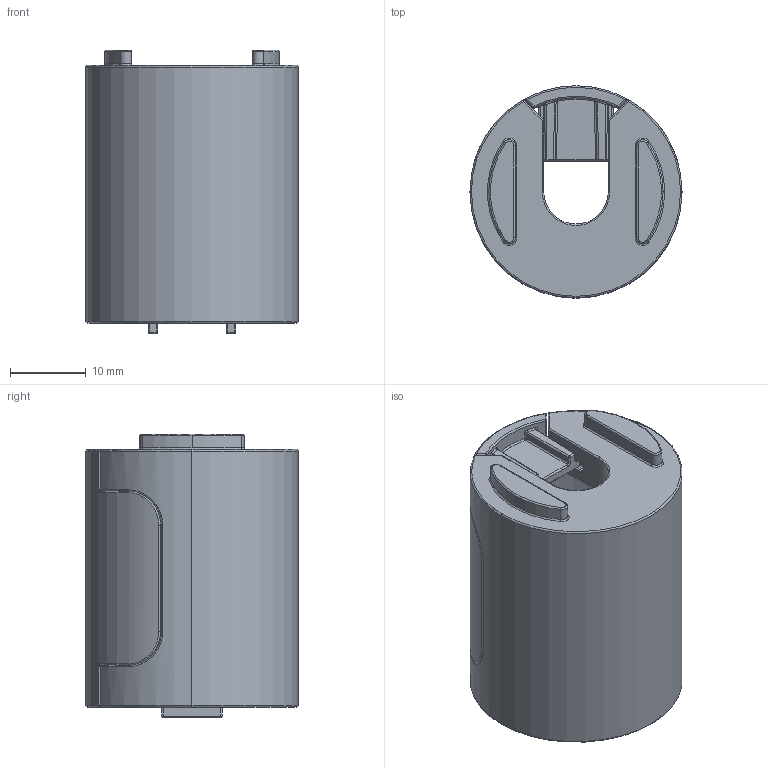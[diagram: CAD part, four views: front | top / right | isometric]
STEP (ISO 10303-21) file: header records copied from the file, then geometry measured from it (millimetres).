
FILE_DESCRIPTION (( 'STEP AP214' ), '1' );
FILE_NAME ('099rv28ts01.STEP', '2014-05-13T07:53:59', ( '' ), ( '' ), 'SwSTEP 2.0', 'SolidWorks 2014', '' );
FILE_SCHEMA (( 'AUTOMOTIVE_DESIGN' ));
Length unit declared in the file: millimetre
Products named in the file (1): 099rv28ts01
Bounding box: 28 x 28 x 37.4 mm (x, y, z)
Volume: 10498.8 mm3; surface area: 7647.7 mm2
Topology: 2 solids, 2 shells, 539 faces, 1238 edges, 659 vertices
Faces by surface type: cylinder 231, plane 94, bspline 89, torus 65, sphere 60
Entity records: 24210 total; most frequent: CARTESIAN_POINT 7078, ORIENTED_EDGE 2360, DIRECTION 2340, EDGE_CURVE 1180, AXIS2_PLACEMENT_3D 940, VERTEX_POINT 649, EDGE_LOOP 543, UNCERTAINTY_MEASURE_WITH_UNIT 543
